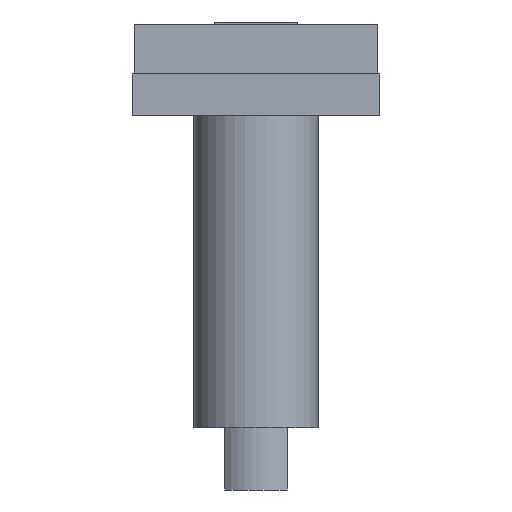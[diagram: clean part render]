
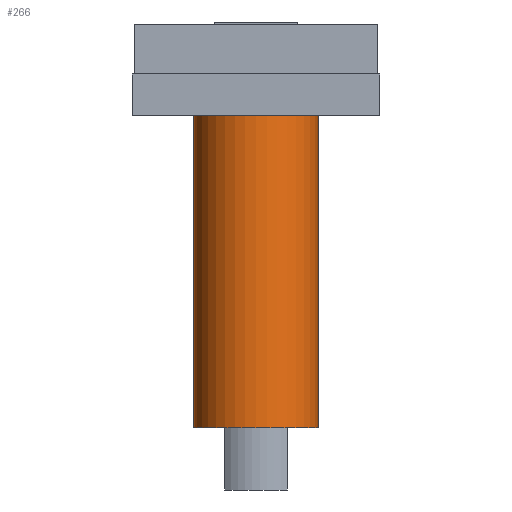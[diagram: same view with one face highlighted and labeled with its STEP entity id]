
A CAD part, left-side view. The second image highlights one B-rep face of the part: STEP entity #266.
In plain terms, the highlighted cylindrical face has radius 3 mm (diameter 6 mm), a full revolution.
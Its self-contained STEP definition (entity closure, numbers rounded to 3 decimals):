
#266=ADVANCED_FACE('',(#495,#497),#499,.T.);
#495=FACE_OUTER_BOUND('',#496,.T.);
#496=EDGE_LOOP('',(#832));
#497=FACE_OUTER_BOUND('',#498,.T.);
#498=EDGE_LOOP('',(#833));
#499=CYLINDRICAL_SURFACE('',#500,3.);
#500=AXIS2_PLACEMENT_3D('',#501,#502,#503);
#501=CARTESIAN_POINT('',(0.,0.,0.));
#502=DIRECTION('',(0.,0.,-1.));
#503=DIRECTION('',(-1.,0.,0.));
#832=ORIENTED_EDGE('',*,*,#1052,.T.);
#833=ORIENTED_EDGE('',*,*,#1053,.F.);
#1052=EDGE_CURVE('',#1260,#1260,#1261,.T.);
#1053=EDGE_CURVE('',#1262,#1262,#1263,.T.);
#1260=VERTEX_POINT('',#1539);
#1261=CIRCLE('',#1540,3.);
#1262=VERTEX_POINT('',#1544);
#1263=CIRCLE('',#1545,3.);
#1539=CARTESIAN_POINT('',(-3.,0.,0.));
#1540=AXIS2_PLACEMENT_3D('',#1541,#1542,#1543);
#1541=CARTESIAN_POINT('',(0.,0.,0.));
#1542=DIRECTION('',(-0.,-0.,-1.));
#1543=DIRECTION('',(-1.,0.,0.));
#1544=CARTESIAN_POINT('',(-3.,0.,-15.));
#1545=AXIS2_PLACEMENT_3D('',#1546,#1547,#1548);
#1546=CARTESIAN_POINT('',(0.,0.,-15.));
#1547=DIRECTION('',(-0.,0.,-1.));
#1548=DIRECTION('',(-1.,0.,0.));
